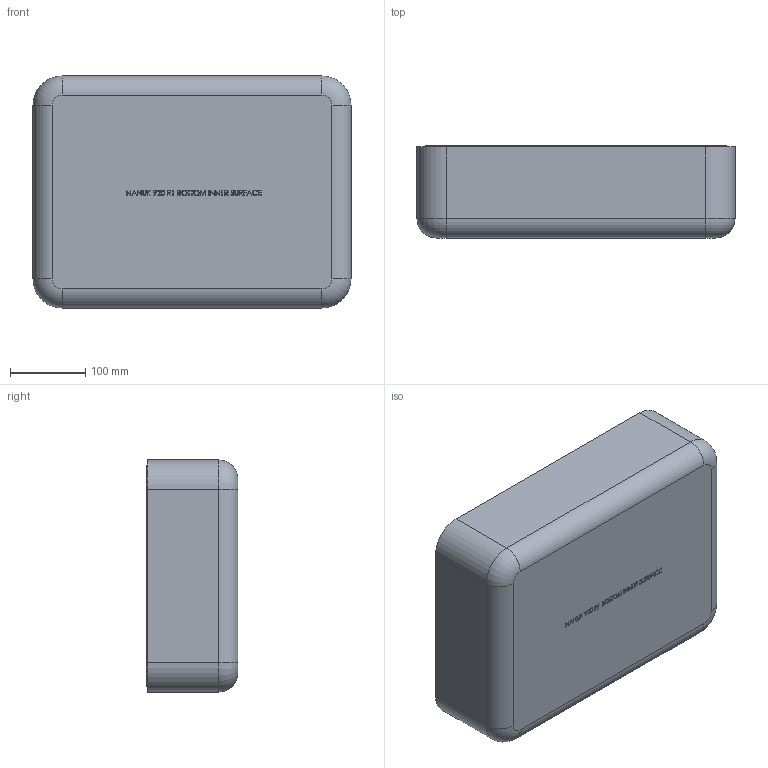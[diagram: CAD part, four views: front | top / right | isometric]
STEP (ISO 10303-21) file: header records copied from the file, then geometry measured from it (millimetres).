
FILE_DESCRIPTION (( 'STEP AP214' ), '1' );
FILE_NAME ('920_R1_Btm_INNER_SURFACE_STEP.STEP', '2020-03-17T18:05:55', ( '' ), ( '' ), 'SwSTEP 2.0', 'SolidWorks 2018', '' );
FILE_SCHEMA (( 'AUTOMOTIVE_DESIGN' ));
Products named in the file (1): 920_R1_Btm_INNER_SURFACE_STEP
Bounding box: 422.55 x 121.79 x 308.25 mm (x, y, z)
Volume: 4424113.3 mm3; surface area: 536911.5 mm2
Topology: 1 solids, 1 shells, 1049 faces, 2536 edges, 1546 vertices
Faces by surface type: bspline 414, plane 339, cylinder 138, torus 116, cone 42
Entity records: 80815 total; most frequent: CARTESIAN_POINT 59300, ORIENTED_EDGE 5056, DIRECTION 3563, EDGE_CURVE 2528, VERTEX_POINT 1546, AXIS2_PLACEMENT_3D 1252, EDGE_LOOP 1114, LINE 1059
